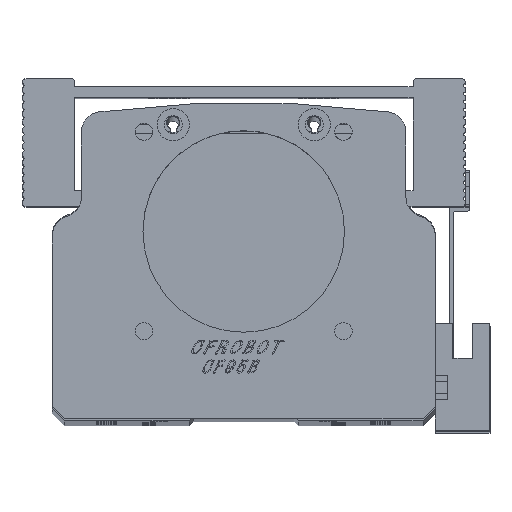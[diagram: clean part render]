
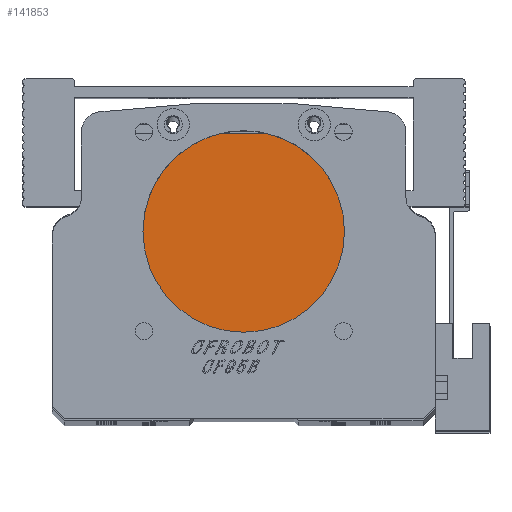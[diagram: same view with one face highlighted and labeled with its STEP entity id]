
A CAD part, top view. The second image highlights one B-rep face of the part: STEP entity #141853.
In plain terms, the highlighted planar face has unit normal (0, 0, 1).
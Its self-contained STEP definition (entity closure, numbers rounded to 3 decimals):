
#1644 = DIRECTION ( 'NONE',  ( 1., 0., 0. ) ) ;
#1852 = LINE ( 'NONE', #75750, #123022 ) ;
#3035 = CARTESIAN_POINT ( 'NONE',  ( 25., 7.73, 0. ) ) ;
#5677 = ORIENTED_EDGE ( 'NONE', *, *, #28686, .T. ) ;
#6084 = AXIS2_PLACEMENT_3D ( 'NONE', #132098, #61782, #143810 ) ;
#8894 = CIRCLE ( 'NONE', #16873, 25. ) ;
#14949 = DIRECTION ( 'NONE',  ( 0., 0., 1. ) ) ;
#16873 = AXIS2_PLACEMENT_3D ( 'NONE', #49171, #131358, #61042 ) ;
#28686 = EDGE_CURVE ( 'NONE', #55051, #90232, #148967, .T. ) ;
#31446 = AXIS2_PLACEMENT_3D ( 'NONE', #61204, #14949, #97055 ) ;
#37311 = EDGE_CURVE ( 'NONE', #60132, #55051, #94061, .T. ) ;
#49171 = CARTESIAN_POINT ( 'NONE',  ( 0., 7.73, 0. ) ) ;
#50529 = CARTESIAN_POINT ( 'NONE',  ( -25., 7.73, 0. ) ) ;
#55051 = VERTEX_POINT ( 'NONE', #50529 ) ;
#60132 = VERTEX_POINT ( 'NONE', #83749 ) ;
#61042 = DIRECTION ( 'NONE',  ( 1., 0., 0. ) ) ;
#61204 = CARTESIAN_POINT ( 'NONE',  ( 0., 0., 0. ) ) ;
#61498 = CARTESIAN_POINT ( 'NONE',  ( 6.078, 31.98, 0. ) ) ;
#61782 = DIRECTION ( 'NONE',  ( 0., 0., 1. ) ) ;
#62695 = EDGE_CURVE ( 'NONE', #90232, #94877, #8894, .T. ) ;
#71968 = DIRECTION ( 'NONE',  ( 0., 0., 1. ) ) ;
#74881 = EDGE_LOOP ( 'NONE', ( #103225, #136654, #5677, #101005 ) ) ;
#75750 = CARTESIAN_POINT ( 'NONE',  ( 27., 31.98, 0. ) ) ;
#83749 = CARTESIAN_POINT ( 'NONE',  ( -6.078, 31.98, 0. ) ) ;
#85334 = PLANE ( 'NONE',  #31446 ) ;
#87557 = DIRECTION ( 'NONE',  ( 1., 0., 0. ) ) ;
#90232 = VERTEX_POINT ( 'NONE', #3035 ) ;
#94061 = CIRCLE ( 'NONE', #141880, 25. ) ;
#94877 = VERTEX_POINT ( 'NONE', #61498 ) ;
#97055 = DIRECTION ( 'NONE',  ( 1., 0., 0. ) ) ;
#98316 = EDGE_CURVE ( 'NONE', #60132, #94877, #1852, .T. ) ;
#101005 = ORIENTED_EDGE ( 'NONE', *, *, #62695, .T. ) ;
#103225 = ORIENTED_EDGE ( 'NONE', *, *, #98316, .F. ) ;
#123022 = VECTOR ( 'NONE', #87557, 1000. ) ;
#131358 = DIRECTION ( 'NONE',  ( 0., 0., 1. ) ) ;
#132098 = CARTESIAN_POINT ( 'NONE',  ( 0., 7.73, 0. ) ) ;
#136654 = ORIENTED_EDGE ( 'NONE', *, *, #37311, .T. ) ;
#137692 = FACE_OUTER_BOUND ( 'NONE', #74881, .T. ) ;
#141853 = ADVANCED_FACE ( 'NONE', ( #137692 ), #85334, .T. ) ;
#141880 = AXIS2_PLACEMENT_3D ( 'NONE', #142199, #71968, #1644 ) ;
#142199 = CARTESIAN_POINT ( 'NONE',  ( 0., 7.73, 0. ) ) ;
#143810 = DIRECTION ( 'NONE',  ( 1., 0., 0. ) ) ;
#148967 = CIRCLE ( 'NONE', #6084, 25. ) ;
